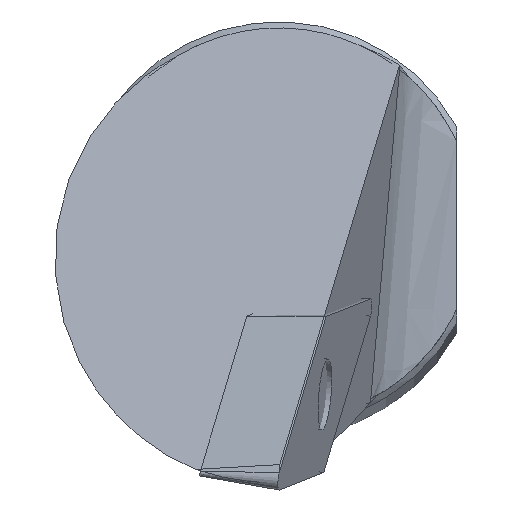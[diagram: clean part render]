
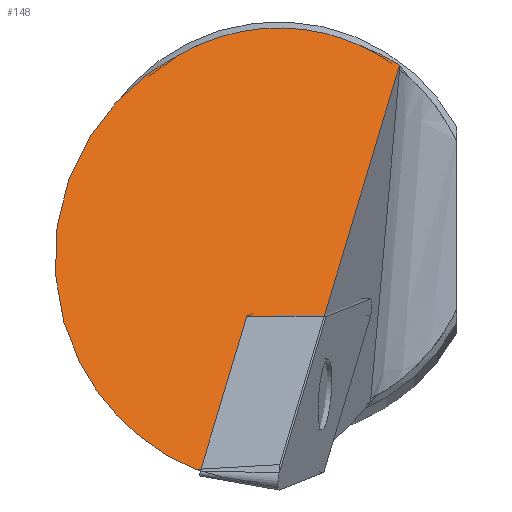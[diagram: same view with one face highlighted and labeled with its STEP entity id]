
A CAD part, top view. The second image highlights one B-rep face of the part: STEP entity #148.
In plain terms, the highlighted planar face has unit normal (-0.044, 0.773, 0.633).
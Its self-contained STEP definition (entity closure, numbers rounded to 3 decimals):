
#148=ADVANCED_FACE('',(#180),#162,.F.);
#162=PLANE('',#465);
#180=FACE_OUTER_BOUND('',#198,.T.);
#198=EDGE_LOOP('',(#261,#262,#263,#264,#265));
#214=ELLIPSE('',#448,14.189,8.881);
#215=ELLIPSE('',#452,14.189,8.881);
#216=ELLIPSE('',#455,12.241,7.75);
#261=ORIENTED_EDGE('',*,*,#366,.F.);
#262=ORIENTED_EDGE('',*,*,#352,.T.);
#263=ORIENTED_EDGE('',*,*,#358,.F.);
#264=ORIENTED_EDGE('',*,*,#363,.F.);
#265=ORIENTED_EDGE('',*,*,#354,.F.);
#315=VERTEX_POINT('',#586);
#319=VERTEX_POINT('',#593);
#320=VERTEX_POINT('',#597);
#321=VERTEX_POINT('',#599);
#324=VERTEX_POINT('',#609);
#352=EDGE_CURVE('',#315,#319,#399,.T.);
#354=EDGE_CURVE('',#320,#321,#214,.T.);
#358=EDGE_CURVE('',#324,#319,#215,.T.);
#363=EDGE_CURVE('',#321,#324,#216,.T.);
#366=EDGE_CURVE('',#315,#320,#402,.T.);
#399=LINE('',#594,#422);
#402=LINE('',#635,#425);
#422=VECTOR('',#490,1.);
#425=VECTOR('',#515,1.);
#448=AXIS2_PLACEMENT_3D('',#598,#495,#496);
#452=AXIS2_PLACEMENT_3D('',#610,#503,#504);
#455=AXIS2_PLACEMENT_3D('',#627,#510,#511);
#465=AXIS2_PLACEMENT_3D('',#685,#536,#537);
#490=DIRECTION('',(0.188,0.629,-0.754));
#495=DIRECTION('',(0.044,-0.773,-0.633));
#496=DIRECTION('',(0.036,-0.632,0.774));
#503=DIRECTION('',(0.044,-0.773,-0.633));
#504=DIRECTION('',(0.036,-0.632,0.774));
#510=DIRECTION('',(0.044,-0.773,-0.633));
#511=DIRECTION('',(0.036,-0.632,0.774));
#515=DIRECTION('',(-0.998,-0.057,0.));
#536=DIRECTION('',(0.044,-0.773,-0.633));
#537=DIRECTION('',(0.,0.634,-0.774));
#586=CARTESIAN_POINT('',(0.045,-9.469,0.));
#593=CARTESIAN_POINT('',(4.756,6.282,-18.9));
#594=CARTESIAN_POINT('',(-1.867,-15.861,7.669));
#597=CARTESIAN_POINT('',(-3.279,-9.658,0.));
#598=CARTESIAN_POINT('',(0.077,-1.346,-9.913));
#599=CARTESIAN_POINT('',(-3.984,6.647,-19.954));
#609=CARTESIAN_POINT('',(3.204,7.057,-19.954));
#610=CARTESIAN_POINT('',(0.077,-1.346,-9.913));
#627=CARTESIAN_POINT('',(0.,0.,-11.562));
#635=CARTESIAN_POINT('',(0.538,-9.441,0.));
#685=CARTESIAN_POINT('',(-55.603,-11.159,-1.806));
